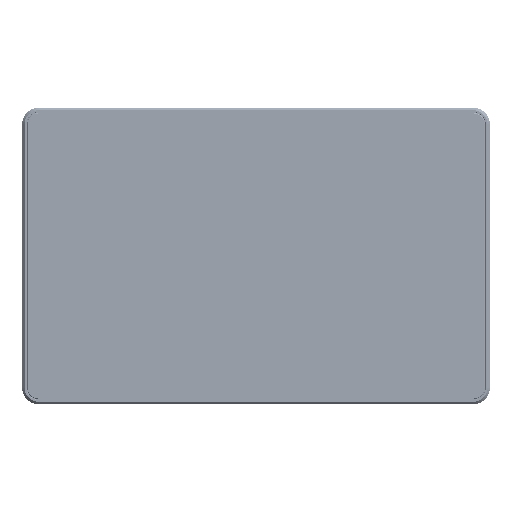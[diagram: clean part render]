
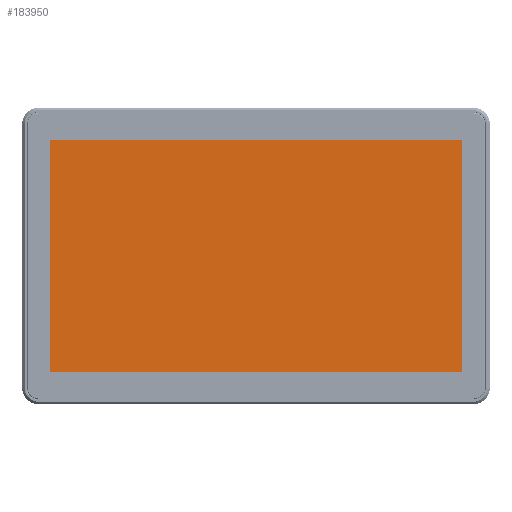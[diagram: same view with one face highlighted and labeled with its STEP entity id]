
A CAD part, top view. The second image highlights one B-rep face of the part: STEP entity #183950.
In plain terms, the highlighted planar face has unit normal (0, 0, 1).
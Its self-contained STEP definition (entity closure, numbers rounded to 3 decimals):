
#6389=PLANE('',#194616);
#21269=LINE('',#299434,#40011);
#21272=LINE('',#299440,#40014);
#21275=LINE('',#299446,#40017);
#21278=LINE('',#299450,#40020);
#40011=VECTOR('',#228447,10.);
#40014=VECTOR('',#228452,10.);
#40017=VECTOR('',#228457,10.);
#40020=VECTOR('',#228462,10.);
#54137=FACE_OUTER_BOUND('',#63724,.T.);
#63724=EDGE_LOOP('',(#153692,#153693,#153694,#153695));
#85597=VERTEX_POINT('',#299431);
#85598=VERTEX_POINT('',#299433);
#85600=VERTEX_POINT('',#299439);
#85602=VERTEX_POINT('',#299445);
#109217=EDGE_CURVE('',#85598,#85597,#21269,.T.);
#109220=EDGE_CURVE('',#85600,#85598,#21272,.T.);
#109223=EDGE_CURVE('',#85602,#85600,#21275,.T.);
#109226=EDGE_CURVE('',#85597,#85602,#21278,.T.);
#153692=ORIENTED_EDGE('',*,*,#109217,.T.);
#153693=ORIENTED_EDGE('',*,*,#109226,.T.);
#153694=ORIENTED_EDGE('',*,*,#109223,.T.);
#153695=ORIENTED_EDGE('',*,*,#109220,.T.);
#183950=ADVANCED_FACE('',(#54137),#6389,.T.);
#194616=AXIS2_PLACEMENT_3D('',#299515,#228532,#228533);
#228447=DIRECTION('',(1.,0.,0.));
#228452=DIRECTION('',(0.,-1.,0.));
#228457=DIRECTION('',(-1.,0.,0.));
#228462=DIRECTION('',(0.,1.,0.));
#228532=DIRECTION('center_axis',(0.,0.,
1.));
#228533=DIRECTION('ref_axis',(-1.,0.,0.));
#299431=CARTESIAN_POINT('',(204.6,-115.9,2.998));
#299433=CARTESIAN_POINT('',(-205.6,-115.9,2.998));
#299434=CARTESIAN_POINT('',(-0.375,-115.9,2.998));
#299439=CARTESIAN_POINT('',(-205.6,114.9,2.998));
#299440=CARTESIAN_POINT('',(-205.6,-58.25,2.998));
#299445=CARTESIAN_POINT('',(204.6,114.9,2.998));
#299446=CARTESIAN_POINT('',(-102.925,114.9,2.998));
#299450=CARTESIAN_POINT('',(204.6,-0.55,2.998));
#299515=CARTESIAN_POINT('Origin',(-0.25,-0.6,
2.998));
